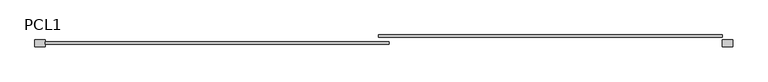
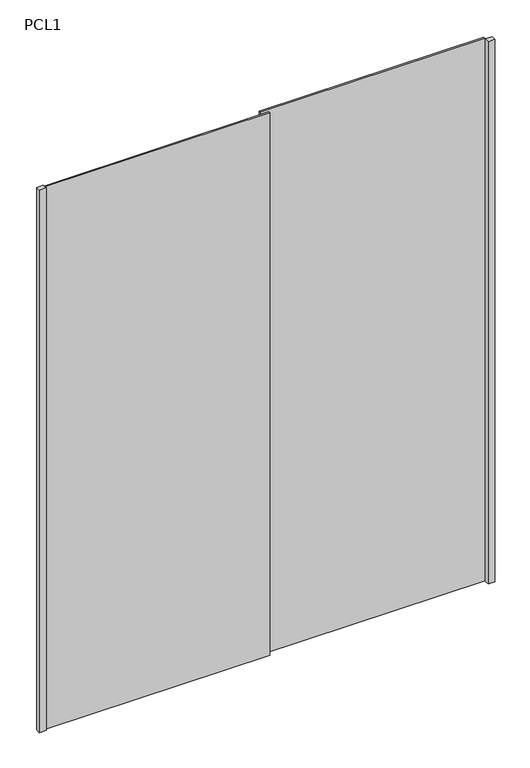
"""IFC4 building model written with IfcOpenShell, lengths in millimetres: furniture geometry, Puerta Closet corre 2 hojas : PCL1."""

from ifc_helpers import new_model, si_unit, origin, origin_with_axes, place, context, project, spatial, polyline, outline, extrude, source, transform, mapped, element, save


def pcl1_63762a59(model_context):
    return source(origin(), model_context, "Body", "SweptSolid", [
        extrude(outline(polyline([(460.0, 80.0), (430.0, 80.0), (430.0, 100.0), (460.0, 100.0), (460.0, 80.0)])), origin_with_axes(), (0.0, 0.0, 1.0), 2520.0),
        extrude(outline(polyline([(430.0, 106.6666667), (-555.0, 106.6666667), (-555.0, 113.3333333), (430.0, 113.3333333), (430.0, 106.6666667)])), origin_with_axes(), (0.0, 0.0, 1.0), 2520.0),
        extrude(outline(polyline([(-525.0, 86.6666667), (-1510.0, 86.6666667), (-1510.0, 93.3333333), (-525.0, 93.3333333), (-525.0, 86.6666667)])), origin_with_axes(), (0.0, 0.0, 1.0), 2520.0),
        extrude(outline(polyline([(-1540.0, 80.0), (-1540.0, 100.0), (-1510.0, 100.0), (-1510.0, 80.0), (-1540.0, 80.0)])), origin_with_axes(), (0.0, 0.0, 1.0), 2520.0),
    ])


if __name__ == "__main__":
    model = new_model("IFC4")
    model_context = context("Model", 3, world=origin())
    ifc_project = project(units=[si_unit("LENGTHUNIT", "METRE", prefix="MILLI")], contexts=[model_context])
    site = spatial("IfcSite", under=ifc_project)
    building = spatial("IfcBuilding", under=site)
    placement = place(None, origin())
    pcl1_shape = pcl1_63762a59(model_context)
    element("IfcFurniture", 1, ObjectType="Puerta Closet corre 2 hojas : PCL1", at=placement, inside=building, context=model_context, shape_type="MappedRepresentation", body=[
        mapped(pcl1_shape, transform((0.0, 0.0, 0.0), x_axis=(1.0, 0.0, 0.0), y_axis=(0.0, 1.0, 0.0), z_axis=(0.0, 0.0, 1.0))),
    ])
    save(model, "model.ifc")
